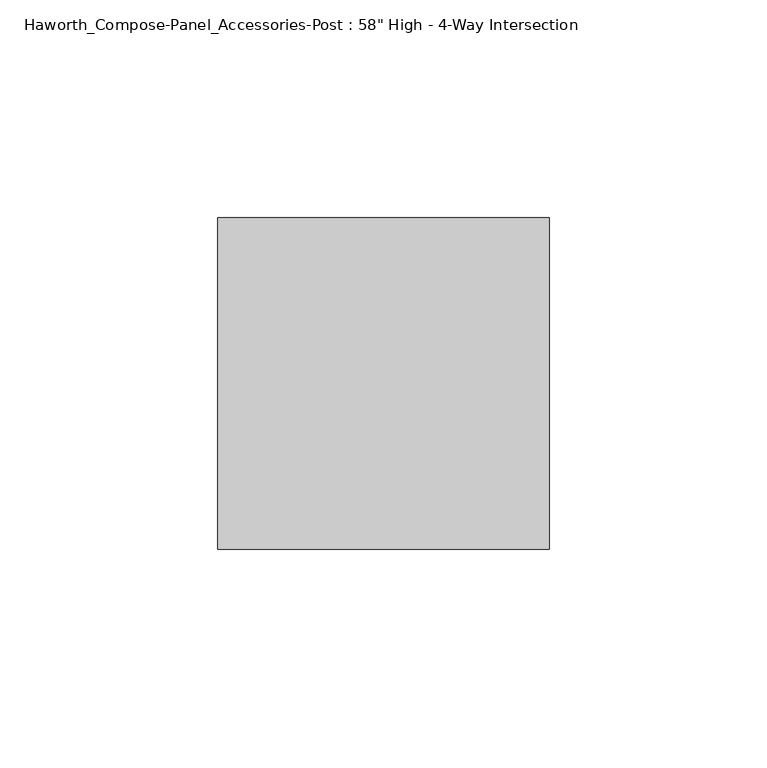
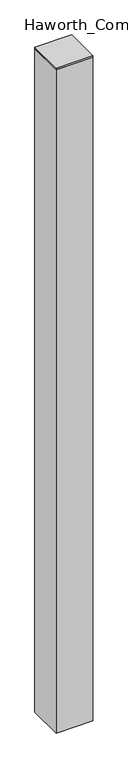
"""IFC4 building model written with IfcOpenShell, lengths in millimetres: furniture geometry."""

from ifc_helpers import new_model, si_unit, frame, origin, place, context, project, spatial, polyline, outline, extrude, source, transform, mapped, element, save


def furniture_a718f5ee(model_context):
    return source(origin(), model_context, "Body", "SweptSolid", [
        extrude(outline(polyline([(0.0, 38.1), (76.2, 38.1), (76.2, -38.1), (0.0, -38.1), (0.0, 38.1)])), frame((0.0, 0.0, 1466.85), z_axis=(0.0, 0.0, 1.0), x_axis=(1.0, 0.0, 0.0)), (0.0, 0.0, 1.0), 3.175),
        extrude(outline(polyline([(76.2, 38.1), (76.2, -38.1), (0.0, -38.1), (0.0, 38.1), (76.2, 38.1)])), frame((0.0, 0.0, 12.7), z_axis=(0.0, 0.0, 1.0), x_axis=(1.0, 0.0, 0.0)), (0.0, 0.0, 1.0), 1454.15),
    ])


if __name__ == "__main__":
    model = new_model("IFC4")
    model_context = context("Model", 3, world=origin())
    ifc_project = project(units=[si_unit("LENGTHUNIT", "METRE", prefix="MILLI")], contexts=[model_context])
    site = spatial("IfcSite", under=ifc_project)
    building = spatial("IfcBuilding", under=site)
    placement = place(None, origin())
    furniture_shape = furniture_a718f5ee(model_context)
    element("IfcFurniture", 1, ObjectType="Haworth_Compose-Panel_Accessories-Post : 58\" High - 4-Way Intersection", at=placement, inside=building, context=model_context, shape_type="MappedRepresentation", body=[
        mapped(furniture_shape, transform((0.0, 0.0, 0.0), x_axis=(1.0, 0.0, 0.0), y_axis=(0.0, 1.0, 0.0), z_axis=(0.0, 0.0, 1.0))),
    ])
    save(model, "model.ifc")
